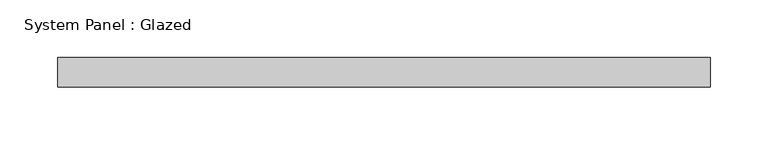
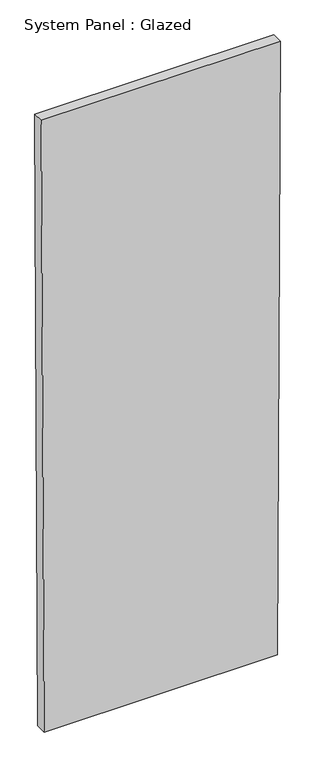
"""IFC4 building model written with IfcOpenShell, lengths in millimetres: plate geometry, System Panel : Glazed."""

import ifcopenshell
import ifcopenshell.guid

model = None  # the IFC model being written
_history = None  # IfcOwnerHistory: only IFC2X3 demands one
_inside = {}  # id of a spatial element -> (the spatial element, [elements in it])
_under = {}  # id of a project, library or spatial element -> (it, [spatial elements below it])
_declared = {}  # id of a project -> (the project, [libraries it declares])
_typed = {}  # id of a type object -> (the type object, [elements of that type])
_made_of = {}  # id of a material, layer set ... -> (it, [elements and type objects made of it])


def new_model(schema):
    """Start an empty IFC model of exactly this schema.

    Asked for "IFC4X3", IfcOpenShell would pick the latest addendum, in which some entities
    have other attributes; the version numbers below select the first issue.
    IFC2X3 requires an IfcOwnerHistory on every rooted entity: one is made here for all.
    """
    global model, _history
    if schema == "IFC4X3":
        model = ifcopenshell.file(schema_version=(4, 3, 0, 0))
    else:
        model = ifcopenshell.file(schema=schema)
    _inside.clear()
    _under.clear()
    _declared.clear()
    _typed.clear()
    _made_of.clear()
    _history = None
    if model.schema == "IFC2X3":
        org = make("IfcOrganization", Name="unknown")
        user = make(
            "IfcPersonAndOrganization",
            ThePerson=make("IfcPerson", FamilyName="unknown"),
            TheOrganization=org,
        )
        app = make(
            "IfcApplication",
            ApplicationDeveloper=org,
            Version="unknown",
            ApplicationFullName="unknown",
            ApplicationIdentifier="unknown",
        )
        _history = make(
            "IfcOwnerHistory",
            OwningUser=user,
            OwningApplication=app,
            ChangeAction="ADDED",
            CreationDate=0,
        )
    return model


def make(cls, **values):
    """One entity of the class cls with the attributes given. An attribute that is None is left unset."""
    return model.create_entity(
        cls, **{name: value for name, value in values.items() if value is not None}
    )


def rooted(cls, **values):
    """An entity with a GlobalId (a new one), such as an element, a storey or a relation."""
    return make(cls, GlobalId=ifcopenshell.guid.new(), OwnerHistory=_history, **values)


def si_unit(unit_type, name, prefix=None):
    """IfcSIUnit, for example si_unit("LENGTHUNIT", "METRE", prefix="MILLI")."""
    return make("IfcSIUnit", UnitType=unit_type, Prefix=prefix, Name=name)


def assignment(units):
    """IfcUnitAssignment: the units of a project."""
    return None if units is None else make("IfcUnitAssignment", Units=units)


def point(xyz):
    """IfcCartesianPoint."""
    return None if xyz is None else make("IfcCartesianPoint", Coordinates=xyz)


def direction(xyz):
    """IfcDirection."""
    return None if xyz is None else make("IfcDirection", DirectionRatios=xyz)


def frame(location, z_axis=None, x_axis=None):
    """IfcAxis2Placement3D, a coordinate frame: its origin and axes. An axis left out is left unset."""
    return make(
        "IfcAxis2Placement3D",
        Location=point(location),
        Axis=direction(z_axis),
        RefDirection=direction(x_axis),
    )


def origin():
    """The frame at (0, 0, 0) with its axes left unset."""
    return frame((0.0, 0.0, 0.0))


def place(relative_to, where):
    """IfcLocalPlacement: puts the frame where relative to a parent placement (None: the world)."""
    return make(
        "IfcLocalPlacement", PlacementRelTo=relative_to, RelativePlacement=where
    )


def context(
    kind, dimensions, precision=None, world=None, true_north=None, identifier=None
):
    """IfcGeometricRepresentationContext, for example the 3D "Model" context."""
    return make(
        "IfcGeometricRepresentationContext",
        ContextIdentifier=identifier,
        ContextType=kind,
        CoordinateSpaceDimension=dimensions,
        Precision=precision,
        WorldCoordinateSystem=world,
        TrueNorth=true_north,
    )


def project(units=None, contexts=None):
    """IfcProject with its units and contexts."""
    return rooted(
        "IfcProject",
        Name="project",
        RepresentationContexts=contexts,
        UnitsInContext=assignment(units),
    )


def spatial(cls, under=None, at=None, **own):
    """A site, building, storey or space (cls), placed at a placement, below another one or the project."""
    s = rooted(cls, ObjectPlacement=at, **own)
    if under is not None:
        _under.setdefault(under.id(), (under, []))[1].append(s)
    return s


def polyline(points):
    """IfcPolyline through the points."""
    return make("IfcPolyline", Points=[point(p) for p in points])


def outline(outer, holes=None, kind="AREA"):
    """IfcArbitraryClosedProfileDef: a profile drawn as a closed curve; with holes, ...WithVoids."""
    if holes is None:
        return make("IfcArbitraryClosedProfileDef", ProfileType=kind, OuterCurve=outer)
    return make(
        "IfcArbitraryProfileDefWithVoids",
        ProfileType=kind,
        OuterCurve=outer,
        InnerCurves=holes,
    )


def extrude(swept, where, along, depth):
    """IfcExtrudedAreaSolid: the profile swept, set in the frame where, extruded along a direction by depth."""
    return make(
        "IfcExtrudedAreaSolid",
        SweptArea=swept,
        Position=where,
        ExtrudedDirection=direction(along),
        Depth=depth,
    )


def shape(context_of_items, identifier, shape_type, items):
    """IfcShapeRepresentation: the items that make up one representation, for example the "Body"."""
    return make(
        "IfcShapeRepresentation",
        ContextOfItems=context_of_items,
        RepresentationIdentifier=identifier,
        RepresentationType=shape_type,
        Items=items,
    )


def source(mapping_origin, context_of_items, identifier, shape_type, items):
    """IfcRepresentationMap: a shape defined once, which mapped items show again and again."""
    return make(
        "IfcRepresentationMap",
        MappingOrigin=mapping_origin,
        MappedRepresentation=shape(context_of_items, identifier, shape_type, items),
    )


def transform(
    local_origin,
    x_axis=None,
    y_axis=None,
    z_axis=None,
    scale=None,
    scale2=None,
    scale3=None,
    uniform=True,
):
    """IfcCartesianTransformationOperator3D, or its non-uniform kind. x_axis, y_axis, z_axis: its Axis1, 2, 3."""
    if uniform:
        return make(
            "IfcCartesianTransformationOperator3D",
            Axis1=direction(x_axis),
            Axis2=direction(y_axis),
            LocalOrigin=point(local_origin),
            Scale=scale,
            Axis3=direction(z_axis),
        )
    return make(
        "IfcCartesianTransformationOperator3DnonUniform",
        Axis1=direction(x_axis),
        Axis2=direction(y_axis),
        LocalOrigin=point(local_origin),
        Scale=scale,
        Axis3=direction(z_axis),
        Scale2=scale2,
        Scale3=scale3,
    )


def mapped(mapping_source, mapping_target):
    """IfcMappedItem: shows the shape of a source again, moved by a transform."""
    return make(
        "IfcMappedItem", MappingSource=mapping_source, MappingTarget=mapping_target
    )


def made_of(thing, what):
    """Note that an element or type object is made of a material, layer set ...; save() writes the relation."""
    if what is not None:
        _made_of.setdefault(what.id(), (what, []))[1].append(thing)
    return thing


def element(
    cls,
    number,
    at=None,
    inside=None,
    cuts=None,
    type_object=None,
    material=None,
    context=None,
    identifier="Body",
    shape_type=None,
    held_by="IfcProductDefinitionShape",
    body=None,
    shapes=None,
    **own,
):
    """One element of the class cls, such as IfcWall. Its Tag is "e" and its number.

    at: its placement. inside: the storey or other place that contains it. cuts: it is an
    opening in that element (IfcRelVoidsElement). A single representation is given by context,
    identifier, shape_type and body (its items); several are given by shapes. held_by: the class
    of the entity that holds the representations. save() writes the other relations.
    """
    e = rooted(cls, Tag="e%d" % number, ObjectPlacement=at, **own)
    if body is not None:
        shapes = [shape(context, identifier, shape_type, body)]
    if shapes is not None:
        e.Representation = make(held_by, Representations=shapes)
    if inside is not None:
        _inside.setdefault(inside.id(), (inside, []))[1].append(e)
    if cuts is not None:
        rooted(
            "IfcRelVoidsElement", RelatingBuildingElement=cuts, RelatedOpeningElement=e
        )
    if type_object is not None:
        _typed.setdefault(type_object.id(), (type_object, []))[1].append(e)
    return made_of(e, material)


def aggregate(whole, parts):
    """IfcRelAggregates: a whole, such as a stair, and the parts it consists of."""
    return rooted("IfcRelAggregates", RelatingObject=whole, RelatedObjects=parts)


def save(model, path):
    """Write the relations noted so far, then the file.

    IfcRelAggregates (storeys below a building ...), IfcRelContainedInSpatialStructure (elements
    in a storey), IfcRelDefinesByType, IfcRelAssociatesMaterial and IfcRelDeclares: one each for
    every whole, place, type object, material and project.
    """
    for whole, parts in _under.values():
        aggregate(whole, parts)
    for where, things in _inside.values():
        rooted(
            "IfcRelContainedInSpatialStructure",
            RelatedElements=things,
            RelatingStructure=where,
        )
    for kind, things in _typed.values():
        rooted("IfcRelDefinesByType", RelatedObjects=things, RelatingType=kind)
    for what, things in _made_of.values():
        rooted("IfcRelAssociatesMaterial", RelatedObjects=things, RelatingMaterial=what)
    for by, libraries in _declared.values():
        rooted("IfcRelDeclares", RelatingContext=by, RelatedDefinitions=libraries)
    model.write(path)


def system_panel_glazed_4af60eb3(model_context):
    return source(origin(), model_context, "Body", "SweptSolid", [
        extrude(outline(polyline([(0.0, -274.5448419), (0.0, 274.5448419), (1523.9833681, 281.6648053), (1523.9833681, -281.6648053), (0.0, -274.5448419)])), frame((0.0, -44.45, 0.0), z_axis=(0.0, 1.0, 0.0), x_axis=(0.0, 0.0, 1.0)), (0.0, 0.0, 1.0), 25.4),
    ])


if __name__ == "__main__":
    model = new_model("IFC4")
    model_context = context("Model", 3, world=origin())
    ifc_project = project(units=[si_unit("LENGTHUNIT", "METRE", prefix="MILLI")], contexts=[model_context])
    site = spatial("IfcSite", under=ifc_project)
    building = spatial("IfcBuilding", under=site)
    placement = place(None, origin())
    system_panel_glazed_shape = system_panel_glazed_4af60eb3(model_context)
    element("IfcPlate", 1, ObjectType="System Panel : Glazed", at=placement, inside=building, context=model_context, shape_type="MappedRepresentation", body=[
        mapped(system_panel_glazed_shape, transform((0.0, 0.0, 0.0), x_axis=(1.0, 0.0, 0.0), y_axis=(0.0, 1.0, 0.0), z_axis=(0.0, 0.0, 1.0))),
    ])
    save(model, "model.ifc")
